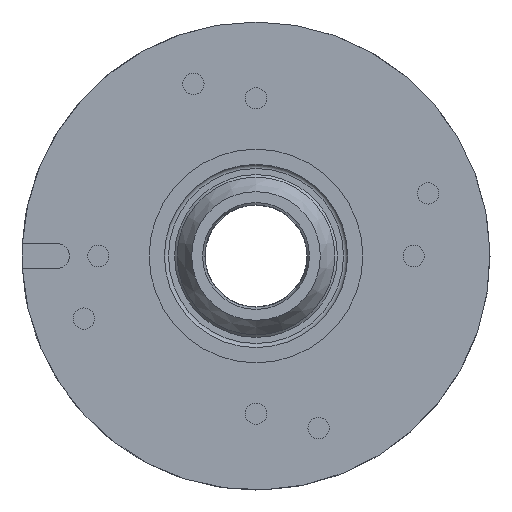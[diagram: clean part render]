
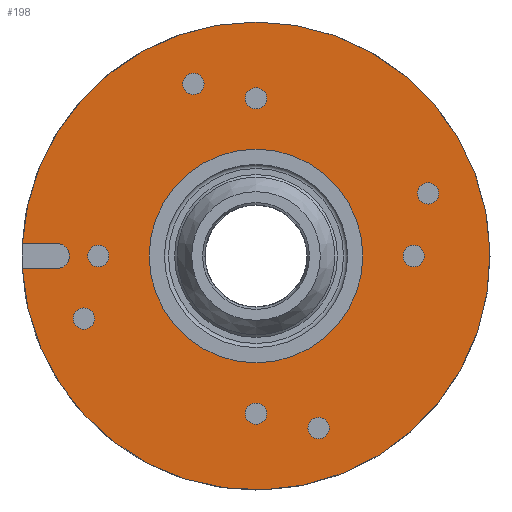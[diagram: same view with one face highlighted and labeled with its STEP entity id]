
A CAD part, left-side view. The second image highlights one B-rep face of the part: STEP entity #198.
In plain terms, the highlighted planar face has unit normal (-1, 0, 0).
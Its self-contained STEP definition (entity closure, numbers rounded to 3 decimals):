
#17 = CIRCLE ( 'NONE', #1876, 2.1 ) ;
#18 = CARTESIAN_POINT ( 'NONE',  ( 0., 39.2, -2.5 ) ) ;
#23 = DIRECTION ( 'NONE',  ( 0., -1., 0. ) ) ;
#35 = VERTEX_POINT ( 'NONE', #613 ) ;
#46 = FACE_BOUND ( 'NONE', #938, .T. ) ;
#53 = DIRECTION ( 'NONE',  ( 0., 0., 1. ) ) ;
#75 = AXIS2_PLACEMENT_3D ( 'NONE', #392, #118, #1424 ) ;
#89 = CARTESIAN_POINT ( 'NONE',  ( 0., -33.829, 14.413 ) ) ;
#114 = VERTEX_POINT ( 'NONE', #282 ) ;
#118 = DIRECTION ( 'NONE',  ( -1., 0., 0. ) ) ;
#119 = CARTESIAN_POINT ( 'NONE',  ( 0., 39.2, 0. ) ) ;
#152 = CIRCLE ( 'NONE', #679, 2.5 ) ;
#188 = ORIENTED_EDGE ( 'NONE', *, *, #975, .F. ) ;
#198 = ADVANCED_FACE ( 'NONE', ( #793, #956, #356, #743, #557, #664, #378, #46, #1960, #819 ), #662, .F. ) ;
#204 = VECTOR ( 'NONE', #23, 1000. ) ;
#213 = DIRECTION ( 'NONE',  ( -1., 0., 0. ) ) ;
#244 = VERTEX_POINT ( 'NONE', #1879 ) ;
#247 = CARTESIAN_POINT ( 'NONE',  ( 0., 0., 0. ) ) ;
#253 = EDGE_CURVE ( 'NONE', #244, #244, #1079, .T. ) ;
#258 = CARTESIAN_POINT ( 'NONE',  ( 0., 0., 0. ) ) ;
#280 = CARTESIAN_POINT ( 'NONE',  ( 0., 39.2, 2.5 ) ) ;
#282 = CARTESIAN_POINT ( 'NONE',  ( 0., 12.313, 35.929 ) ) ;
#283 = AXIS2_PLACEMENT_3D ( 'NONE', #365, #1671, #1994 ) ;
#323 = AXIS2_PLACEMENT_3D ( 'NONE', #1959, #2088, #1640 ) ;
#340 = ORIENTED_EDGE ( 'NONE', *, *, #703, .F. ) ;
#356 = FACE_BOUND ( 'NONE', #1316, .T. ) ;
#360 = ORIENTED_EDGE ( 'NONE', *, *, #635, .F. ) ;
#365 = CARTESIAN_POINT ( 'NONE',  ( 0., 33.829, -12.313 ) ) ;
#378 = FACE_BOUND ( 'NONE', #1532, .T. ) ;
#385 = CARTESIAN_POINT ( 'NONE',  ( 0., 39.2, 2.5 ) ) ;
#392 = CARTESIAN_POINT ( 'NONE',  ( 0., 31., 0. ) ) ;
#428 = CIRCLE ( 'NONE', #454, 2.1 ) ;
#454 = AXIS2_PLACEMENT_3D ( 'NONE', #2010, #213, #53 ) ;
#462 = ORIENTED_EDGE ( 'NONE', *, *, #748, .F. ) ;
#466 = EDGE_CURVE ( 'NONE', #628, #628, #428, .T. ) ;
#468 = VERTEX_POINT ( 'NONE', #1110 ) ;
#487 = CARTESIAN_POINT ( 'NONE',  ( 0., 0., -31. ) ) ;
#496 = AXIS2_PLACEMENT_3D ( 'NONE', #247, #1556, #746 ) ;
#519 = VERTEX_POINT ( 'NONE', #1257 ) ;
#557 = FACE_BOUND ( 'NONE', #1462, .T. ) ;
#578 = CIRCLE ( 'NONE', #1169, 2.1 ) ;
#582 = EDGE_LOOP ( 'NONE', ( #1140 ) ) ;
#598 = CIRCLE ( 'NONE', #933, 2.1 ) ;
#612 = ORIENTED_EDGE ( 'NONE', *, *, #253, .F. ) ;
#613 = CARTESIAN_POINT ( 'NONE',  ( 0., 0., -28.9 ) ) ;
#614 = VERTEX_POINT ( 'NONE', #1088 ) ;
#620 = DIRECTION ( 'NONE',  ( 0., 0., 1. ) ) ;
#621 = EDGE_CURVE ( 'NONE', #1071, #1071, #578, .T. ) ;
#627 = DIRECTION ( 'NONE',  ( 0., 0., 1. ) ) ;
#628 = VERTEX_POINT ( 'NONE', #1409 ) ;
#635 = EDGE_CURVE ( 'NONE', #519, #519, #1883, .T. ) ;
#649 = VERTEX_POINT ( 'NONE', #280 ) ;
#662 = PLANE ( 'NONE',  #1526 ) ;
#664 = FACE_BOUND ( 'NONE', #582, .T. ) ;
#665 = EDGE_CURVE ( 'NONE', #1613, #614, #1056, .T. ) ;
#679 = AXIS2_PLACEMENT_3D ( 'NONE', #119, #1917, #627 ) ;
#681 = VERTEX_POINT ( 'NONE', #1571 ) ;
#689 = LINE ( 'NONE', #1657, #204 ) ;
#703 = EDGE_CURVE ( 'NONE', #906, #906, #17, .T. ) ;
#738 = DIRECTION ( 'NONE',  ( -1., 0., 0. ) ) ;
#743 = FACE_BOUND ( 'NONE', #2090, .T. ) ;
#746 = DIRECTION ( 'NONE',  ( 0., 0., 1. ) ) ;
#748 = EDGE_CURVE ( 'NONE', #1710, #649, #152, .T. ) ;
#787 = CIRCLE ( 'NONE', #283, 2.1 ) ;
#793 = FACE_BOUND ( 'NONE', #1658, .T. ) ;
#813 = EDGE_CURVE ( 'NONE', #114, #114, #1402, .T. ) ;
#814 = DIRECTION ( 'NONE',  ( -1., 0., 0. ) ) ;
#819 = FACE_OUTER_BOUND ( 'NONE', #1638, .T. ) ;
#834 = DIRECTION ( 'NONE',  ( 0., 0., 1. ) ) ;
#852 = ORIENTED_EDGE ( 'NONE', *, *, #2003, .F. ) ;
#857 = EDGE_CURVE ( 'NONE', #1613, #1710, #689, .T. ) ;
#906 = VERTEX_POINT ( 'NONE', #89 ) ;
#915 = CIRCLE ( 'NONE', #75, 2.1 ) ;
#926 = EDGE_LOOP ( 'NONE', ( #1482 ) ) ;
#929 = CARTESIAN_POINT ( 'NONE',  ( 0., -31., 2.1 ) ) ;
#933 = AXIS2_PLACEMENT_3D ( 'NONE', #487, #1666, #1415 ) ;
#937 = DIRECTION ( 'NONE',  ( 0., 0., 1. ) ) ;
#938 = EDGE_LOOP ( 'NONE', ( #612 ) ) ;
#956 = FACE_BOUND ( 'NONE', #926, .T. ) ;
#972 = DIRECTION ( 'NONE',  ( 0., 0., -1. ) ) ;
#975 = EDGE_CURVE ( 'NONE', #681, #681, #787, .T. ) ;
#1056 = CIRCLE ( 'NONE', #1982, 46. ) ;
#1063 = ORIENTED_EDGE ( 'NONE', *, *, #857, .F. ) ;
#1071 = VERTEX_POINT ( 'NONE', #929 ) ;
#1079 = CIRCLE ( 'NONE', #323, 2.1 ) ;
#1088 = CARTESIAN_POINT ( 'NONE',  ( 0., 45.932, 2.5 ) ) ;
#1110 = CARTESIAN_POINT ( 'NONE',  ( 0., 31., 2.1 ) ) ;
#1134 = ORIENTED_EDGE ( 'NONE', *, *, #621, .F. ) ;
#1136 = EDGE_LOOP ( 'NONE', ( #360 ) ) ;
#1140 = ORIENTED_EDGE ( 'NONE', *, *, #1970, .F. ) ;
#1151 = EDGE_CURVE ( 'NONE', #468, #468, #915, .T. ) ;
#1169 = AXIS2_PLACEMENT_3D ( 'NONE', #1247, #738, #1886 ) ;
#1247 = CARTESIAN_POINT ( 'NONE',  ( 0., -31., 0. ) ) ;
#1257 = CARTESIAN_POINT ( 'NONE',  ( 0., 0., 21. ) ) ;
#1297 = CARTESIAN_POINT ( 'NONE',  ( 0., 45.932, -2.5 ) ) ;
#1316 = EDGE_LOOP ( 'NONE', ( #340 ) ) ;
#1402 = CIRCLE ( 'NONE', #1957, 2.1 ) ;
#1409 = CARTESIAN_POINT ( 'NONE',  ( 0., -12.313, -31.729 ) ) ;
#1415 = DIRECTION ( 'NONE',  ( 0., 0., 1. ) ) ;
#1424 = DIRECTION ( 'NONE',  ( 0., 0., 1. ) ) ;
#1430 = ORIENTED_EDGE ( 'NONE', *, *, #1151, .F. ) ;
#1454 = DIRECTION ( 'NONE',  ( -1., 0., 0. ) ) ;
#1457 = DIRECTION ( 'NONE',  ( 1., 0., 0. ) ) ;
#1462 = EDGE_LOOP ( 'NONE', ( #1430 ) ) ;
#1482 = ORIENTED_EDGE ( 'NONE', *, *, #466, .F. ) ;
#1526 = AXIS2_PLACEMENT_3D ( 'NONE', #1627, #1457, #972 ) ;
#1532 = EDGE_LOOP ( 'NONE', ( #1134 ) ) ;
#1539 = DIRECTION ( 'NONE',  ( 0., 1., 0. ) ) ;
#1556 = DIRECTION ( 'NONE',  ( -1., 0., 0. ) ) ;
#1571 = CARTESIAN_POINT ( 'NONE',  ( 0., 33.829, -10.213 ) ) ;
#1607 = ORIENTED_EDGE ( 'NONE', *, *, #665, .T. ) ;
#1613 = VERTEX_POINT ( 'NONE', #1297 ) ;
#1627 = CARTESIAN_POINT ( 'NONE',  ( 0., 46., 0. ) ) ;
#1638 = EDGE_LOOP ( 'NONE', ( #1607, #852, #462, #1063 ) ) ;
#1640 = DIRECTION ( 'NONE',  ( 0., 0., 1. ) ) ;
#1657 = CARTESIAN_POINT ( 'NONE',  ( 0., 45.932, -2.5 ) ) ;
#1658 = EDGE_LOOP ( 'NONE', ( #188 ) ) ;
#1666 = DIRECTION ( 'NONE',  ( -1., 0., 0. ) ) ;
#1671 = DIRECTION ( 'NONE',  ( -1., 0., 0. ) ) ;
#1710 = VERTEX_POINT ( 'NONE', #18 ) ;
#1738 = DIRECTION ( 'NONE',  ( -1., 0., 0. ) ) ;
#1876 = AXIS2_PLACEMENT_3D ( 'NONE', #2092, #1454, #620 ) ;
#1879 = CARTESIAN_POINT ( 'NONE',  ( 0., 0., 33.1 ) ) ;
#1883 = CIRCLE ( 'NONE', #496, 21. ) ;
#1886 = DIRECTION ( 'NONE',  ( 0., 0., 1. ) ) ;
#1917 = DIRECTION ( 'NONE',  ( -1., 0., 0. ) ) ;
#1929 = VECTOR ( 'NONE', #1539, 1000. ) ;
#1953 = LINE ( 'NONE', #385, #1929 ) ;
#1957 = AXIS2_PLACEMENT_3D ( 'NONE', #2097, #814, #834 ) ;
#1959 = CARTESIAN_POINT ( 'NONE',  ( 0., 0., 31. ) ) ;
#1960 = FACE_BOUND ( 'NONE', #1136, .T. ) ;
#1970 = EDGE_CURVE ( 'NONE', #35, #35, #598, .T. ) ;
#1982 = AXIS2_PLACEMENT_3D ( 'NONE', #258, #1738, #937 ) ;
#1994 = DIRECTION ( 'NONE',  ( 0., 0., 1. ) ) ;
#2003 = EDGE_CURVE ( 'NONE', #649, #614, #1953, .T. ) ;
#2010 = CARTESIAN_POINT ( 'NONE',  ( 0., -12.313, -33.829 ) ) ;
#2088 = DIRECTION ( 'NONE',  ( -1., 0., 0. ) ) ;
#2090 = EDGE_LOOP ( 'NONE', ( #2105 ) ) ;
#2092 = CARTESIAN_POINT ( 'NONE',  ( 0., -33.829, 12.313 ) ) ;
#2097 = CARTESIAN_POINT ( 'NONE',  ( 0., 12.313, 33.829 ) ) ;
#2105 = ORIENTED_EDGE ( 'NONE', *, *, #813, .F. ) ;
